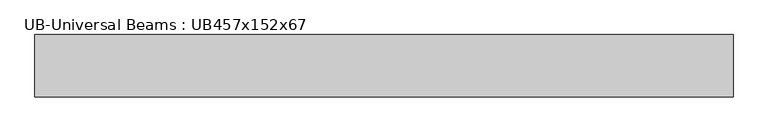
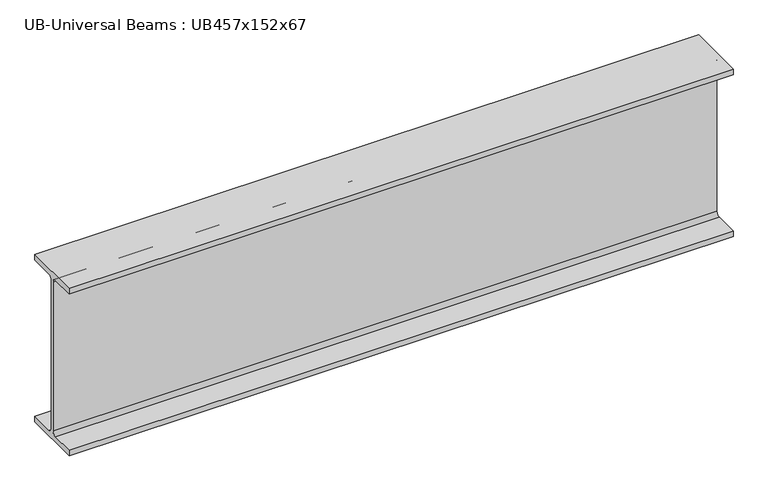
"""IFC4 building model written with IfcOpenShell, lengths in millimetres: beam geometry, UB-Universal Beams : UB457x152x67."""

from ifc_helpers import new_model, si_unit, point, frame, frame_2d, origin, place, context, project, spatial, polyline, circle_curve, trimmed, segment, composite_curve, outline, extrude, source, transform, mapped, element, save


def ub_universal_beams_ub457x152x67_801fcbf0(model_context):
    return source(origin(), model_context, "Body", "SweptSolid", [
        extrude(outline(composite_curve([segment(polyline([(76.9, -214.0), (76.9, -229.0), (-76.9, -229.0), (-76.9, -214.0), (-14.7, -214.0)]), True, "CONTINUOUS"), segment(trimmed(circle_curve(frame_2d((-14.7, -203.8)), 10.2), [point((-14.7, -214.0))], [point((-4.5, -203.8))], True, "CARTESIAN"), True, "CONTINUOUS"), segment(polyline([(-4.5, -203.8), (-4.5, 203.8)]), True, "CONTINUOUS"), segment(trimmed(circle_curve(frame_2d((-14.7, 203.8)), 10.2), [point((-4.5, 203.8))], [point((-14.7, 214.0))], True, "CARTESIAN"), True, "CONTINUOUS"), segment(polyline([(-14.7, 214.0), (-76.9, 214.0), (-76.9, 229.0), (76.9, 229.0), (76.9, 214.0), (14.7, 214.0)]), True, "CONTINUOUS"), segment(trimmed(circle_curve(frame_2d((14.7, 203.8)), 10.2), [point((14.7, 214.0))], [point((4.5, 203.8))], True, "CARTESIAN"), True, "CONTINUOUS"), segment(polyline([(4.5, 203.8), (4.5, -203.8)]), True, "CONTINUOUS"), segment(trimmed(circle_curve(frame_2d((14.7, -203.8)), 10.2), [point((4.5, -203.8))], [point((14.7, -214.0))], True, "CARTESIAN"), True, "CONTINUOUS"), segment(polyline([(14.7, -214.0), (76.9, -214.0)]), True, "CONTINUOUS")], self_intersect=False)), frame((-850.95, 0.0, 0.0), z_axis=(1.0, 0.0, 0.0), x_axis=(0.0, 1.0, 0.0)), (0.0, 0.0, 1.0), 1716.7),
    ])


if __name__ == "__main__":
    model = new_model("IFC4")
    model_context = context("Model", 3, world=origin())
    ifc_project = project(units=[si_unit("LENGTHUNIT", "METRE", prefix="MILLI")], contexts=[model_context])
    site = spatial("IfcSite", under=ifc_project)
    building = spatial("IfcBuilding", under=site)
    placement = place(None, origin())
    ub_universal_beams_ub457x152x67_shape = ub_universal_beams_ub457x152x67_801fcbf0(model_context)
    element("IfcBeam", 1, ObjectType="UB-Universal Beams : UB457x152x67", at=placement, inside=building, context=model_context, shape_type="MappedRepresentation", body=[
        mapped(ub_universal_beams_ub457x152x67_shape, transform((0.0, 0.0, 0.0), x_axis=(1.0, 0.0, 0.0), y_axis=(0.0, 1.0, 0.0), z_axis=(0.0, 0.0, 1.0))),
    ])
    save(model, "model.ifc")
